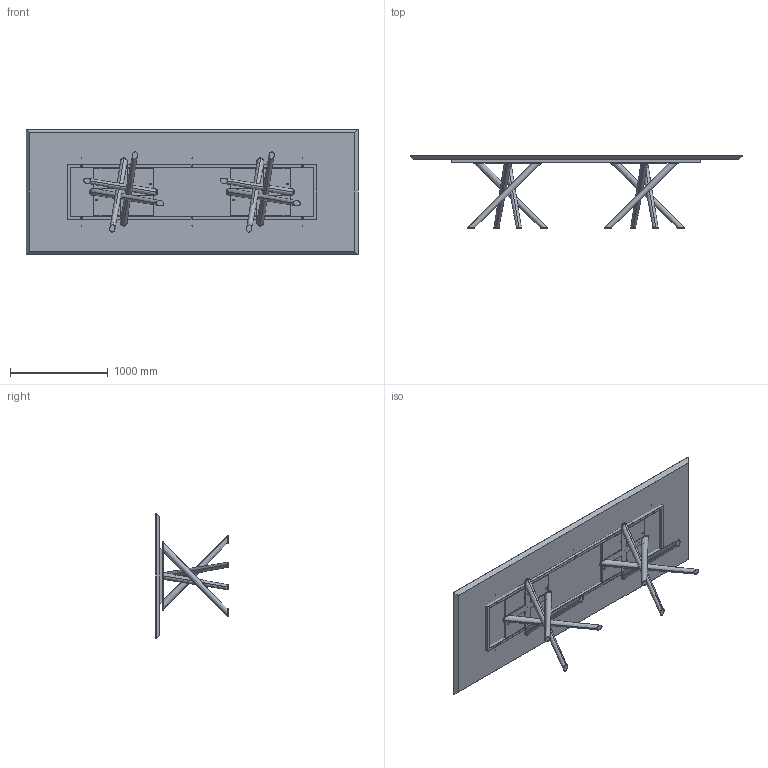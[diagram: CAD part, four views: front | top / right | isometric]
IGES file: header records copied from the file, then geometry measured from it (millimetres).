
Start section: SolidWorks IGES file using analytic representation for surfaces
Global section: file name: Y:\eforma\TECNICO\SOLIDWORKS\E-FORMA\1-TAVOLI\BALY\02 parts\BA26W.IGS; native system: SolidWorks 2022; preprocessor: SolidWorks 2022; author: eforma.tech; date: 240808.075609; units: millimetre
Bounding box: 3400 x 743 x 1280 mm (x, y, z)
Volume: 169047206.8 mm3; surface area: 15261669 mm2
Topology: 22 solids, 22 shells, 616 faces, 1514 edges, 924 vertices
Faces by surface type: revolution 322, plane 278, bspline 16
